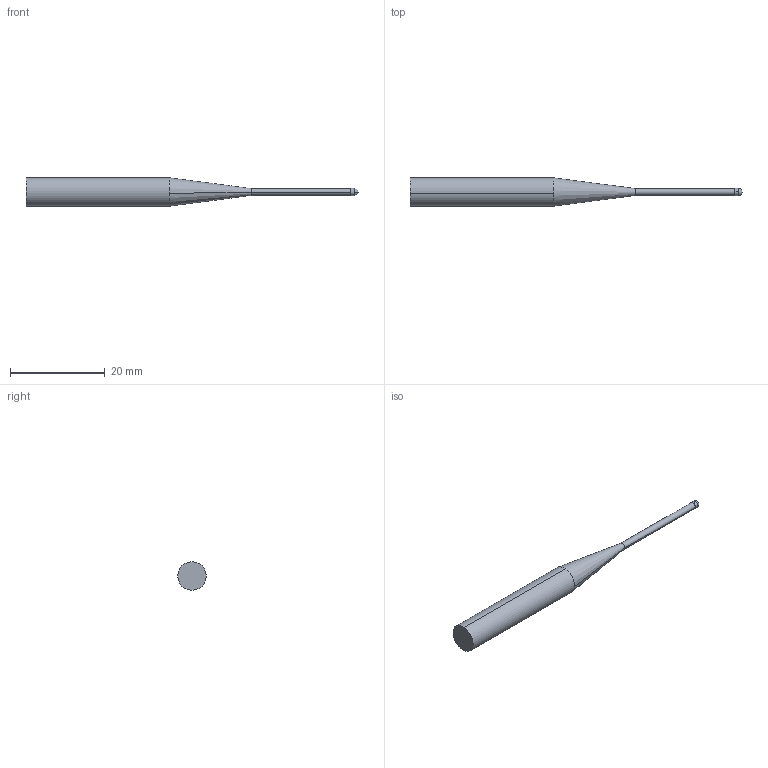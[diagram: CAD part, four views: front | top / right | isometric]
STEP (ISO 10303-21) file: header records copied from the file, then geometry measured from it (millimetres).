
FILE_DESCRIPTION (( 'STEP AP214' ), '1' );
FILE_NAME ('HM70xBNX20015.STEP', '2025-05-20T15:09:28', ( '' ), ( '' ), 'SwSTEP 2.0', 'SolidWorks 2023', '' );
FILE_SCHEMA (( 'AUTOMOTIVE_DESIGN' ));
Length unit declared in the file: millimetre
Products named in the file (3): HM70xBNX20015; HM70xBN OD ONLY_HM70xBNX20015; HM70xBN SHANK ONLY_HM70xBNX20015
Assembly tree (2 placements, depth 2):
  HM70xBNX20015
    HM70xBN OD ONLY_HM70xBNX20015
    HM70xBN SHANK ONLY_HM70xBNX20015
Bounding box: 70 x 5.98 x 5.98 mm (x, y, z)
Volume: 1103.1 mm3; surface area: 908 mm2
Topology: 2 solids, 2 shells, 13 faces, 28 edges, 17 vertices
Faces by surface type: cylinder 6, plane 3, sphere 2, cone 2
Entity records: 438 total; most frequent: DIRECTION 80, CARTESIAN_POINT 61, ORIENTED_EDGE 52, AXIS2_PLACEMENT_3D 36, EDGE_CURVE 26, CIRCLE 18, VERTEX_POINT 17, EDGE_LOOP 13
